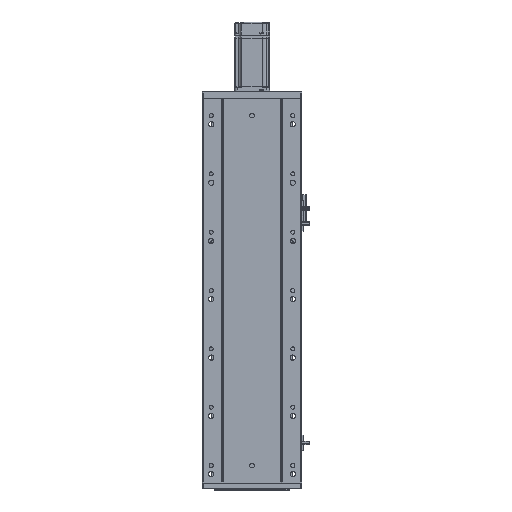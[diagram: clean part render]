
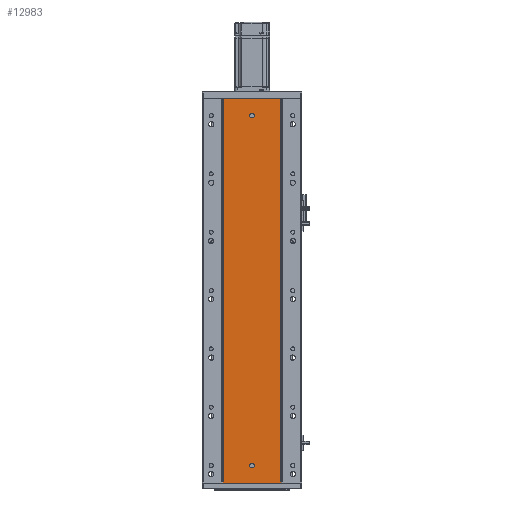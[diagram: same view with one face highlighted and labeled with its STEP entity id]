
A CAD part, front view. The second image highlights one B-rep face of the part: STEP entity #12983.
In plain terms, the highlighted planar face has unit normal (0, -1, 0).
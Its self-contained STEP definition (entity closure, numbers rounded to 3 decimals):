
#1799 = EDGE_CURVE ( 'NONE', #45557, #45523, #4779, .T. ) ;
#1825 = EDGE_CURVE ( 'NONE', #46279, #46316, #4852, .T. ) ;
#1829 = EDGE_CURVE ( 'NONE', #46274, #46279, #34063, .T. ) ;
#1861 = EDGE_CURVE ( 'NONE', #46274, #46286, #4902, .T. ) ;
#1885 = EDGE_CURVE ( 'NONE', #45453, #45451, #4986, .T. ) ;
#1893 = EDGE_CURVE ( 'NONE', #46286, #46316, #34070, .T. ) ;
#2187 = EDGE_CURVE ( 'NONE', #45523, #45557, #61464, .T. ) ;
#2223 = EDGE_CURVE ( 'NONE', #45451, #45453, #61565, .T. ) ;
#4779 = CIRCLE ( 'NONE', #51831, 4. ) ;
#4852 = LINE ( 'NONE', #31685, #4866 ) ;
#4866 = VECTOR ( 'NONE', #31688, 1000. ) ;
#4902 = LINE ( 'NONE', #31875, #4940 ) ;
#4940 = VECTOR ( 'NONE', #31891, 1000. ) ;
#4986 = CIRCLE ( 'NONE', #51789, 4. ) ;
#6060 = ORIENTED_EDGE ( 'NONE', *, *, #1829, .T. ) ;
#6128 = ORIENTED_EDGE ( 'NONE', *, *, #1825, .T. ) ;
#6186 = ORIENTED_EDGE ( 'NONE', *, *, #1799, .F. ) ;
#6194 = ORIENTED_EDGE ( 'NONE', *, *, #2223, .F. ) ;
#6200 = ORIENTED_EDGE ( 'NONE', *, *, #1861, .F. ) ;
#6224 = ORIENTED_EDGE ( 'NONE', *, *, #2187, .F. ) ;
#6232 = ORIENTED_EDGE ( 'NONE', *, *, #1893, .F. ) ;
#6284 = ORIENTED_EDGE ( 'NONE', *, *, #1885, .F. ) ;
#8826 = CARTESIAN_POINT ( 'NONE',  ( 136.47, 79.476, 34. ) ) ;
#8844 = CARTESIAN_POINT ( 'NONE',  ( 136.47, 79.476, 26. ) ) ;
#8918 = CARTESIAN_POINT ( 'NONE',  ( 136.47, 79.476, 626. ) ) ;
#8931 = CARTESIAN_POINT ( 'NONE',  ( 136.47, 79.476, 634. ) ) ;
#9528 = CARTESIAN_POINT ( 'NONE',  ( 185.97, 79.476, 0. ) ) ;
#9553 = CARTESIAN_POINT ( 'NONE',  ( 86.97, 79.476, 660. ) ) ;
#9555 = CARTESIAN_POINT ( 'NONE',  ( 185.97, 79.476, 660. ) ) ;
#9584 = CARTESIAN_POINT ( 'NONE',  ( 86.97, 79.476, 0. ) ) ;
#12983 = ADVANCED_FACE ( 'NONE', ( #25318, #25325, #25362 ), #34270, .F. ) ;
#13299 = CARTESIAN_POINT ( 'NONE',  ( 185.97, 79.476, 220. ) ) ;
#13313 = CARTESIAN_POINT ( 'NONE',  ( 136.47, 79.476, 30. ) ) ;
#13314 = CARTESIAN_POINT ( 'NONE',  ( 185.97, 79.476, 440. ) ) ;
#13317 = CARTESIAN_POINT ( 'NONE',  ( 185.97, 79.476, 0. ) ) ;
#13318 = DIRECTION ( 'NONE',  ( 0., 0., -1. ) ) ;
#13322 = CARTESIAN_POINT ( 'NONE',  ( 185.97, 79.476, 660. ) ) ;
#13325 = DIRECTION ( 'NONE',  ( 0., -1., 0. ) ) ;
#14935 = DIRECTION ( 'NONE',  ( 0., -1., 0. ) ) ;
#14936 = DIRECTION ( 'NONE',  ( 0., 0., -1. ) ) ;
#14944 = CARTESIAN_POINT ( 'NONE',  ( 136.47, 79.476, 630. ) ) ;
#15442 = AXIS2_PLACEMENT_3D ( 'NONE', #34284, #34265, #34285 ) ;
#25318 = FACE_BOUND ( 'NONE', #45035, .T. ) ;
#25325 = FACE_BOUND ( 'NONE', #45005, .T. ) ;
#25362 = FACE_OUTER_BOUND ( 'NONE', #44937, .T. ) ;
#31604 = CARTESIAN_POINT ( 'NONE',  ( 136.47, 79.476, 630. ) ) ;
#31637 = DIRECTION ( 'NONE',  ( 0., -1., 0. ) ) ;
#31640 = DIRECTION ( 'NONE',  ( 0., 0., -1. ) ) ;
#31652 = CARTESIAN_POINT ( 'NONE',  ( 86.97, 79.476, 220. ) ) ;
#31655 = CARTESIAN_POINT ( 'NONE',  ( 86.97, 79.476, 0. ) ) ;
#31685 = CARTESIAN_POINT ( 'NONE',  ( 0., 79.476, 0. ) ) ;
#31688 = DIRECTION ( 'NONE',  ( 1., 0., 0. ) ) ;
#31714 = CARTESIAN_POINT ( 'NONE',  ( 86.97, 79.476, 660. ) ) ;
#31721 = CARTESIAN_POINT ( 'NONE',  ( 86.97, 79.476, 440. ) ) ;
#31875 = CARTESIAN_POINT ( 'NONE',  ( 0., 79.476, 660. ) ) ;
#31891 = DIRECTION ( 'NONE',  ( 1., 0., 0. ) ) ;
#34063 = B_SPLINE_CURVE_WITH_KNOTS ( 'NONE', 3,
 ( #31714, #31721, #31652, #31655 ),
 .UNSPECIFIED., .F., .F.,
 ( 4, 4 ),
 ( 0., 1. ),
 .UNSPECIFIED. ) ;
#34070 = B_SPLINE_CURVE_WITH_KNOTS ( 'NONE', 3,
 ( #13322, #13314, #13299, #13317 ),
 .UNSPECIFIED., .F., .F.,
 ( 4, 4 ),
 ( 0., 1. ),
 .UNSPECIFIED. ) ;
#34265 = DIRECTION ( 'NONE',  ( 0., 1., 0. ) ) ;
#34270 = PLANE ( 'NONE',  #15442 ) ;
#34284 = CARTESIAN_POINT ( 'NONE',  ( 0., 79.476, 660. ) ) ;
#34285 = DIRECTION ( 'NONE',  ( 0., 0., 1. ) ) ;
#40600 = DIRECTION ( 'NONE',  ( 0., 0., -1. ) ) ;
#40614 = CARTESIAN_POINT ( 'NONE',  ( 136.47, 79.476, 30. ) ) ;
#40639 = DIRECTION ( 'NONE',  ( 0., -1., 0. ) ) ;
#44937 = EDGE_LOOP ( 'NONE', ( #6128, #6232, #6200, #6060 ) ) ;
#45005 = EDGE_LOOP ( 'NONE', ( #6284, #6194 ) ) ;
#45035 = EDGE_LOOP ( 'NONE', ( #6186, #6224 ) ) ;
#45451 = VERTEX_POINT ( 'NONE', #8826 ) ;
#45453 = VERTEX_POINT ( 'NONE', #8844 ) ;
#45523 = VERTEX_POINT ( 'NONE', #8931 ) ;
#45557 = VERTEX_POINT ( 'NONE', #8918 ) ;
#46274 = VERTEX_POINT ( 'NONE', #9553 ) ;
#46279 = VERTEX_POINT ( 'NONE', #9584 ) ;
#46286 = VERTEX_POINT ( 'NONE', #9555 ) ;
#46316 = VERTEX_POINT ( 'NONE', #9528 ) ;
#51789 = AXIS2_PLACEMENT_3D ( 'NONE', #13313, #13325, #13318 ) ;
#51831 = AXIS2_PLACEMENT_3D ( 'NONE', #31604, #31637, #31640 ) ;
#51910 = AXIS2_PLACEMENT_3D ( 'NONE', #40614, #40639, #40600 ) ;
#51920 = AXIS2_PLACEMENT_3D ( 'NONE', #14944, #14935, #14936 ) ;
#61464 = CIRCLE ( 'NONE', #51920, 4. ) ;
#61565 = CIRCLE ( 'NONE', #51910, 4. ) ;
